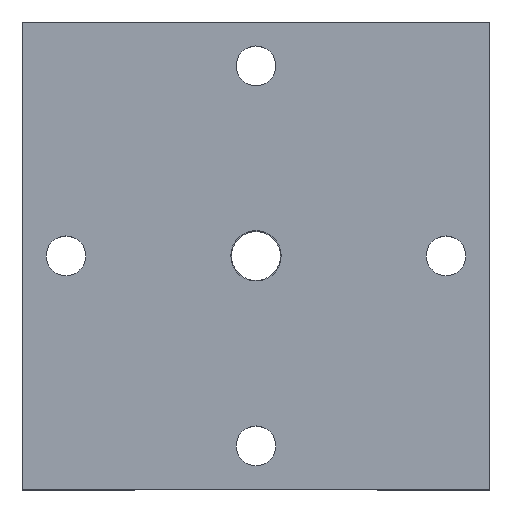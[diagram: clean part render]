
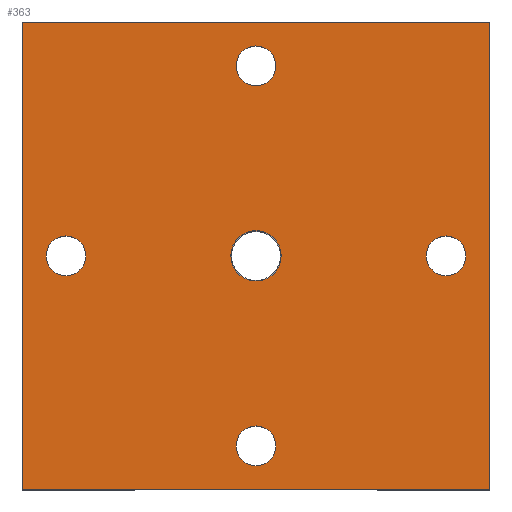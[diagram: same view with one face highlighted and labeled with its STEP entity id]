
A CAD part, top view. The second image highlights one B-rep face of the part: STEP entity #363.
In plain terms, the highlighted planar face has unit normal (0, 0, 1).
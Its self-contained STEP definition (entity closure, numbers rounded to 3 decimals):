
#363=ADVANCED_FACE('',(#731,#732,#733,#734,#735,#736),#737,.T.);
#731=FACE_BOUND('',#1101,.T.);
#732=FACE_BOUND('',#1102,.T.);
#733=FACE_BOUND('',#1103,.T.);
#734=FACE_BOUND('',#1104,.T.);
#735=FACE_BOUND('',#1105,.T.);
#736=FACE_OUTER_BOUND('',#1106,.T.);
#737=PLANE('',#1107);
#1101=EDGE_LOOP('',(#2105,#2106));
#1102=EDGE_LOOP('',(#2107,#2108));
#1103=EDGE_LOOP('',(#2109,#2110));
#1104=EDGE_LOOP('',(#2111,#2112));
#1105=EDGE_LOOP('',(#2113,#2114));
#1106=EDGE_LOOP('',(#2115,#2116,#2117,#2118));
#1107=AXIS2_PLACEMENT_3D('',#2119,#2120,#2121);
#2105=ORIENTED_EDGE('',*,*,#2514,.T.);
#2106=ORIENTED_EDGE('',*,*,#2189,.T.);
#2107=ORIENTED_EDGE('',*,*,#2517,.T.);
#2108=ORIENTED_EDGE('',*,*,#2184,.T.);
#2109=ORIENTED_EDGE('',*,*,#2520,.T.);
#2110=ORIENTED_EDGE('',*,*,#2179,.T.);
#2111=ORIENTED_EDGE('',*,*,#2523,.T.);
#2112=ORIENTED_EDGE('',*,*,#2174,.T.);
#2113=ORIENTED_EDGE('',*,*,#2526,.T.);
#2114=ORIENTED_EDGE('',*,*,#2169,.T.);
#2115=ORIENTED_EDGE('',*,*,#2561,.T.);
#2116=ORIENTED_EDGE('',*,*,#2549,.T.);
#2117=ORIENTED_EDGE('',*,*,#2537,.T.);
#2118=ORIENTED_EDGE('',*,*,#2573,.T.);
#2119=CARTESIAN_POINT('',(0.0,0.0,40.0));
#2120=DIRECTION('',(0.0,0.0,1.0));
#2121=DIRECTION('',(1.0,0.0,0.0));
#2169=EDGE_CURVE('',#2582,#2579,#2583,.T.);
#2174=EDGE_CURVE('',#2591,#2588,#2592,.T.);
#2179=EDGE_CURVE('',#2600,#2597,#2601,.T.);
#2184=EDGE_CURVE('',#2609,#2606,#2610,.T.);
#2189=EDGE_CURVE('',#2618,#2615,#2619,.T.);
#2514=EDGE_CURVE('',#2615,#2618,#3095,.T.);
#2517=EDGE_CURVE('',#2606,#2609,#3098,.T.);
#2520=EDGE_CURVE('',#2597,#2600,#3101,.T.);
#2523=EDGE_CURVE('',#2588,#2591,#3104,.T.);
#2526=EDGE_CURVE('',#2579,#2582,#3107,.T.);
#2537=EDGE_CURVE('',#3124,#3122,#3125,.T.);
#2549=EDGE_CURVE('',#3142,#3124,#3143,.T.);
#2561=EDGE_CURVE('',#3160,#3142,#3161,.T.);
#2573=EDGE_CURVE('',#3122,#3160,#3178,.T.);
#2579=VERTEX_POINT('',#3184);
#2582=VERTEX_POINT('',#3188);
#2583=CIRCLE('',#3189,3.4);
#2588=VERTEX_POINT('',#3195);
#2591=VERTEX_POINT('',#3199);
#2592=CIRCLE('',#3200,3.4);
#2597=VERTEX_POINT('',#3206);
#2600=VERTEX_POINT('',#3210);
#2601=CIRCLE('',#3211,3.4);
#2606=VERTEX_POINT('',#3217);
#2609=VERTEX_POINT('',#3221);
#2610=CIRCLE('',#3222,3.4);
#2615=VERTEX_POINT('',#3228);
#2618=VERTEX_POINT('',#3232);
#2619=CIRCLE('',#3233,4.3);
#3095=CIRCLE('',#3934,4.3);
#3098=CIRCLE('',#3937,3.4);
#3101=CIRCLE('',#3940,3.4);
#3104=CIRCLE('',#3943,3.4);
#3107=CIRCLE('',#3946,3.4);
#3122=VERTEX_POINT('',#3965);
#3124=VERTEX_POINT('',#3968);
#3125=LINE('',#3969,#3970);
#3142=VERTEX_POINT('',#3993);
#3143=LINE('',#3994,#3995);
#3160=VERTEX_POINT('',#4018);
#3161=LINE('',#4019,#4020);
#3178=LINE('',#4043,#4044);
#3184=CARTESIAN_POINT('',(3.4,32.5,40.0));
#3188=CARTESIAN_POINT('',(-3.4,32.5,40.0));
#3189=AXIS2_PLACEMENT_3D('',#4051,#4052,#4053);
#3195=CARTESIAN_POINT('',(-32.5,3.4,40.0));
#3199=CARTESIAN_POINT('',(-32.5,-3.4,40.0));
#3200=AXIS2_PLACEMENT_3D('',#4059,#4060,#4061);
#3206=CARTESIAN_POINT('',(-3.4,-32.5,40.0));
#3210=CARTESIAN_POINT('',(3.4,-32.5,40.0));
#3211=AXIS2_PLACEMENT_3D('',#4067,#4068,#4069);
#3217=CARTESIAN_POINT('',(32.5,-3.4,40.0));
#3221=CARTESIAN_POINT('',(32.5,3.4,40.0));
#3222=AXIS2_PLACEMENT_3D('',#4075,#4076,#4077);
#3228=CARTESIAN_POINT('',(4.3,0.0,40.0));
#3232=CARTESIAN_POINT('',(-4.3,0.,40.0));
#3233=AXIS2_PLACEMENT_3D('',#4083,#4084,#4085);
#3934=AXIS2_PLACEMENT_3D('',#4335,#4336,#4337);
#3937=AXIS2_PLACEMENT_3D('',#4341,#4342,#4343);
#3940=AXIS2_PLACEMENT_3D('',#4347,#4348,#4349);
#3943=AXIS2_PLACEMENT_3D('',#4353,#4354,#4355);
#3946=AXIS2_PLACEMENT_3D('',#4359,#4360,#4361);
#3965=CARTESIAN_POINT('',(-40.0,-40.0,40.0));
#3968=CARTESIAN_POINT('',(-40.0,40.0,40.0));
#3969=CARTESIAN_POINT('',(-40.0,0.0,40.0));
#3970=VECTOR('',#4373,1.0);
#3993=CARTESIAN_POINT('',(40.0,40.0,40.0));
#3994=CARTESIAN_POINT('',(0.0,40.0,40.0));
#3995=VECTOR('',#4386,1.0);
#4018=CARTESIAN_POINT('',(40.0,-40.0,40.0));
#4019=CARTESIAN_POINT('',(40.0,0.0,40.0));
#4020=VECTOR('',#4399,1.0);
#4043=CARTESIAN_POINT('',(0.0,-40.0,40.0));
#4044=VECTOR('',#4412,1.0);
#4051=CARTESIAN_POINT('',(0.0,32.5,40.0));
#4052=DIRECTION('',(0.0,0.0,-1.0));
#4053=DIRECTION('',(1.0,0.0,0.0));
#4059=CARTESIAN_POINT('',(-32.5,0.0,40.0));
#4060=DIRECTION('',(0.0,0.0,-1.0));
#4061=DIRECTION('',(0.0,1.0,0.0));
#4067=CARTESIAN_POINT('',(0.0,-32.5,40.0));
#4068=DIRECTION('',(-0.0,0.0,-1.0));
#4069=DIRECTION('',(-1.0,0.0,0.0));
#4075=CARTESIAN_POINT('',(32.5,0.0,40.0));
#4076=DIRECTION('',(-0.0,-0.0,-1.0));
#4077=DIRECTION('',(0.0,-1.0,0.0));
#4083=CARTESIAN_POINT('',(0.0,0.0,40.0));
#4084=DIRECTION('',(0.0,0.0,-1.0));
#4085=DIRECTION('',(1.0,0.0,0.0));
#4335=CARTESIAN_POINT('',(0.0,0.0,40.0));
#4336=DIRECTION('',(0.0,0.0,-1.0));
#4337=DIRECTION('',(1.0,0.0,0.0));
#4341=CARTESIAN_POINT('',(32.5,0.0,40.0));
#4342=DIRECTION('',(-0.0,-0.0,-1.0));
#4343=DIRECTION('',(0.0,-1.0,0.0));
#4347=CARTESIAN_POINT('',(0.0,-32.5,40.0));
#4348=DIRECTION('',(-0.0,0.0,-1.0));
#4349=DIRECTION('',(-1.0,0.0,0.0));
#4353=CARTESIAN_POINT('',(-32.5,0.0,40.0));
#4354=DIRECTION('',(0.0,0.0,-1.0));
#4355=DIRECTION('',(0.0,1.0,0.0));
#4359=CARTESIAN_POINT('',(0.0,32.5,40.0));
#4360=DIRECTION('',(0.0,0.0,-1.0));
#4361=DIRECTION('',(1.0,0.0,0.0));
#4373=DIRECTION('',(0.0,-1.0,0.0));
#4386=DIRECTION('',(-1.0,0.0,0.0));
#4399=DIRECTION('',(0.0,1.0,0.0));
#4412=DIRECTION('',(1.0,0.0,0.0));
